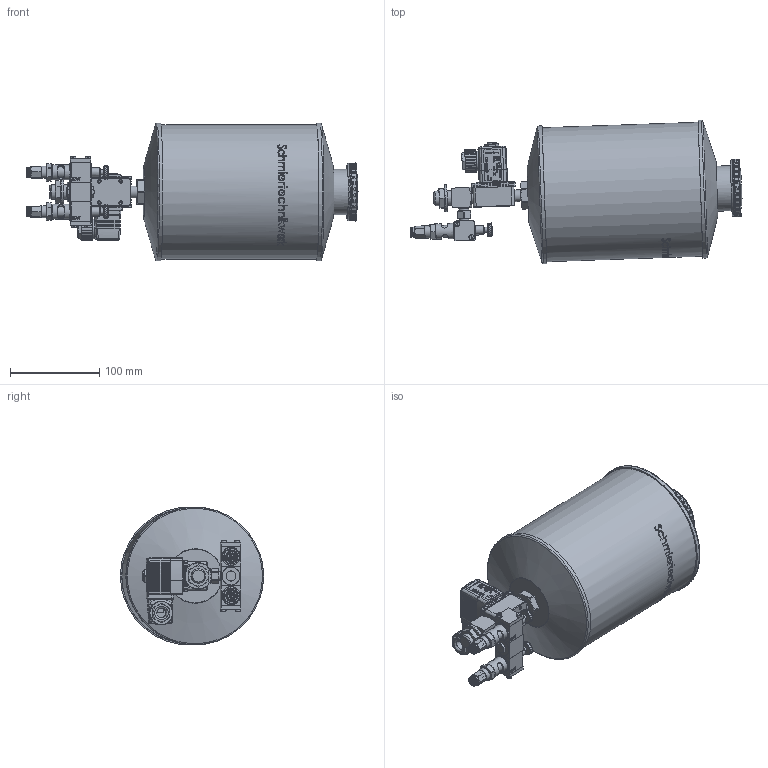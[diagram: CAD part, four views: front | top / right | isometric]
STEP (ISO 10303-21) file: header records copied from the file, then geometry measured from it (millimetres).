
FILE_DESCRIPTION (( 'STEP AP214' ), '1' );
FILE_NAME ('TRO_03_03_02_XXX.STEP', '2025-11-24T14:39:29', ( '' ), ( '' ), 'SwSTEP 2.0', 'SolidWorks 2022', '' );
FILE_SCHEMA (( 'AUTOMOTIVE_DESIGN' ));
Length unit declared in the file: millimetre
Products named in the file (17): OR 7.66X1.78; OR 7.2X1.9_1; TRO_03_03_02_XXX; TRO_Magnetventil_aktuell; TRO_2er; TRO_2er_mittel; TRO_2er_mittel_Mit_Verschr.SLDPRT; TRO_Magnetventil_ohne; TRO_Stutzen.SLDPRT; TRO_Endplatte; RIVOLUZIONE_0; TRO_Magnetventil_Stecker; DR6_NEU; DR6-C_HDX_25.07.16; R200107-N1; 9911 0701 0601_6_1_8_HD; TRO_Behaelter_03
Assembly tree (15 placements, depth 4):
  OR 7.2X1.9_1
  TRO_03_03_02_XXX
    TRO_2er_mittel_Mit_Verschr.SLDPRT
      TRO_Stutzen.SLDPRT
        TRO_2er_mittel
      TRO_2er
      9911 0701 0601_6_1_8_HD  x2
        RIVOLUZIONE_0
        OR 7.66X1.78
        DR6-C_HDX_25.07.16
    TRO_Endplatte  x2
    TRO_Magnetventil_aktuell
      TRO_Magnetventil_ohne
      TRO_Magnetventil_Stecker
    TRO_Behaelter_03
  DR6_NEU
  R200107-N1
Bounding box: 371.57 x 160.4 x 154.4 mm (x, y, z)
Volume: 530984.2 mm3; surface area: 364258.7 mm2
Topology: 19 solids, 19 shells, 6015 faces, 15735 edges, 9808 vertices
Faces by surface type: plane 2466, bspline 2064, cylinder 874, cone 608, torus 3
Full cylindrical faces by diameter (mm): 1.5 x2, 2 x2, 3.5 x6, 3.8 x2, 4.2 x2, 4.5 x2, 5.5 x4, 5.9 x4, 6 x2, 6.2 x2, 6.25 x1, 6.3 x2, 6.75 x1, 7 x3, 7.2 x2, 7.4 x1, 8 x2, 8.3 x2, 8.4 x1, 8.5 x1, 8.6 x5, 8.8 x1, 9 x3, 9.2 x1, 9.5 x2, 9.728 x2, 9.8 x1, 9.9 x2, 10 x8, 10.1 x1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
Entity records: 289112 total; most frequent: CARTESIAN_POINT 155122, ORIENTED_EDGE 29996, DIRECTION 17836, EDGE_CURVE 14998, VERTEX_POINT 9513, B_SPLINE_CURVE_WITH_KNOTS 6700, AXIS2_PLACEMENT_3D 6682, EDGE_LOOP 6447
